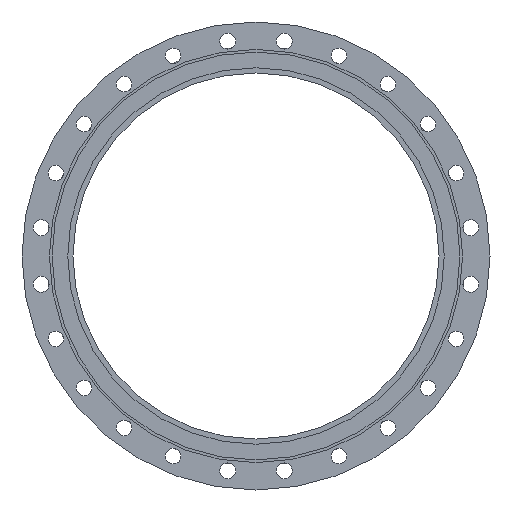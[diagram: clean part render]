
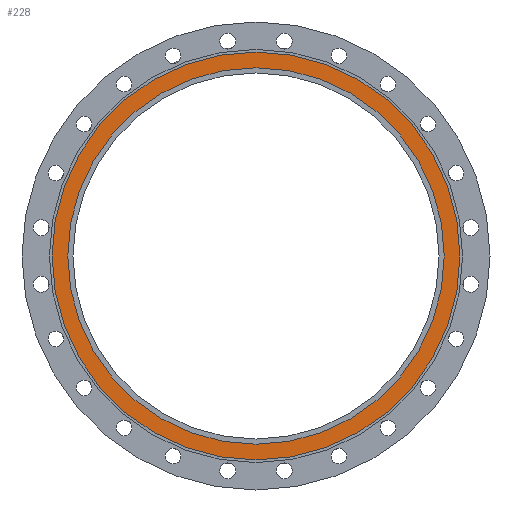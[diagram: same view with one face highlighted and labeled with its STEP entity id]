
A CAD part, left-side view. The second image highlights one B-rep face of the part: STEP entity #228.
In plain terms, the highlighted planar face has unit normal (-1, 0, 0).
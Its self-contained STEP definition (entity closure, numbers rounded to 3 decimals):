
#228=ADVANCED_FACE('',(#8359,#8361),#8363,.T.);
#8359=FACE_BOUND('',#8360,.T.);
#8360=EDGE_LOOP('',(#15741,#15742));
#8361=FACE_BOUND('',#8362,.T.);
#8362=EDGE_LOOP('',(#15743,#15744));
#8363=PLANE('',#8364);
#8364=AXIS2_PLACEMENT_3D('',#8365,#8366,#8367);
#8365=CARTESIAN_POINT('',(22673.019,-448.509,0.));
#8366=DIRECTION('',(-1.,0.,0.));
#8367=DIRECTION('',(0.,0.,1.));
#15741=ORIENTED_EDGE('',*,*,#20897,.F.);
#15742=ORIENTED_EDGE('',*,*,#20898,.F.);
#15743=ORIENTED_EDGE('',*,*,#20895,.T.);
#15744=ORIENTED_EDGE('',*,*,#20896,.T.);
#20895=EDGE_CURVE('',#24333,#24334,#24335,.T.);
#20896=EDGE_CURVE('',#24334,#24333,#24336,.T.);
#20897=EDGE_CURVE('',#24337,#24338,#24339,.T.);
#20898=EDGE_CURVE('',#24338,#24337,#24340,.T.);
#24333=VERTEX_POINT('',#32682);
#24334=VERTEX_POINT('',#32683);
#24335=CIRCLE('',#32684,360.);
#24336=CIRCLE('',#32688,360.);
#24337=VERTEX_POINT('',#32692);
#24338=VERTEX_POINT('',#32693);
#24339=CIRCLE('',#32694,390.);
#24340=CIRCLE('',#32698,390.);
#32682=CARTESIAN_POINT('',(22673.019,-418.509,0.));
#32683=CARTESIAN_POINT('',(22673.019,301.491,0.));
#32684=AXIS2_PLACEMENT_3D('',#32685,#32686,#32687);
#32685=CARTESIAN_POINT('',(22673.019,-58.509,0.));
#32686=DIRECTION('',(1.,0.,0.));
#32687=DIRECTION('',(0.,-1.,0.));
#32688=AXIS2_PLACEMENT_3D('',#32689,#32690,#32691);
#32689=CARTESIAN_POINT('',(22673.019,-58.509,0.));
#32690=DIRECTION('',(1.,0.,0.));
#32691=DIRECTION('',(0.,1.,0.));
#32692=CARTESIAN_POINT('',(22673.019,331.491,0.));
#32693=CARTESIAN_POINT('',(22673.019,-448.509,0.));
#32694=AXIS2_PLACEMENT_3D('',#32695,#32696,#32697);
#32695=CARTESIAN_POINT('',(22673.019,-58.509,0.));
#32696=DIRECTION('',(1.,0.,0.));
#32697=DIRECTION('',(0.,1.,0.));
#32698=AXIS2_PLACEMENT_3D('',#32699,#32700,#32701);
#32699=CARTESIAN_POINT('',(22673.019,-58.509,0.));
#32700=DIRECTION('',(1.,0.,0.));
#32701=DIRECTION('',(0.,-1.,0.));
